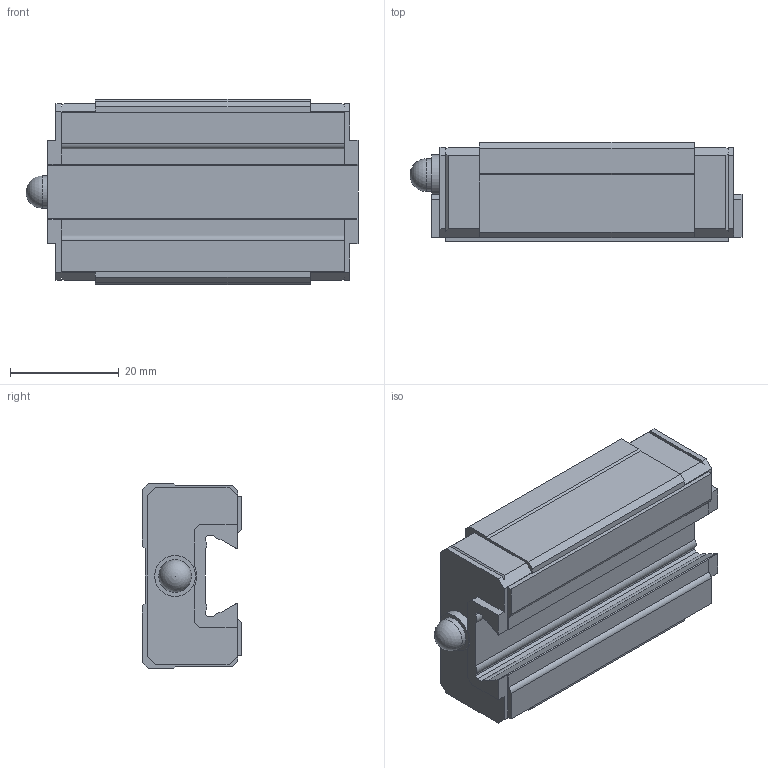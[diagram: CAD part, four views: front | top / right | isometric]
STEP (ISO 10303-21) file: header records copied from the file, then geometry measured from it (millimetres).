
FILE_DESCRIPTION(/* description */ ('STEP AP214'),/* implementation_level */ '2;1');
FILE_NAME(/* name */ 'SR15W1SS(GK) BLOCK(PB1021B1)',/* time_stamp */ '2023-06-01T09:45:53+02:00',/* author */ ('License CC BY-ND 4.0'),/* organization */ ('CADENAS'),/* preprocessor_version */ 'ST-DEVELOPER v19.3',/* originating_system */ 'PARTsolutions',/* authorisation */ ' ');
FILE_SCHEMA (('AUTOMOTIVE_DESIGN {1 0 10303 214 3 1 1}'));
Length unit declared in the file: millimetre
Products named in the file (3): SR15W1SS(GK) BLOCK(PB1021B1); SR-PB1021B_gnj; SR15WSSPB1021B1 S
Assembly tree (2 placements, depth 2):
  SR15W1SS(GK) BLOCK(PB1021B1)
    SR-PB1021B_gnj
    SR15WSSPB1021B1 S
Bounding box: 61 x 18.2 x 34 mm (x, y, z)
Volume: 26996.3 mm3; surface area: 8428.9 mm2
Topology: 2 solids, 2 shells, 123 faces, 340 edges, 224 vertices
Faces by surface type: plane 95, cylinder 19, cone 8, sphere 1
Full cylindrical faces by diameter (mm): 3.242 x4, 4 x3, 6 x1, 7.5 x1
Entity records: 3823 total; most frequent: CARTESIAN_POINT 664, ORIENTED_EDGE 632, DIRECTION 614, EDGE_CURVE 316, LINE 270, VECTOR 270, VERTEX_POINT 222, AXIS2_PLACEMENT_3D 172
